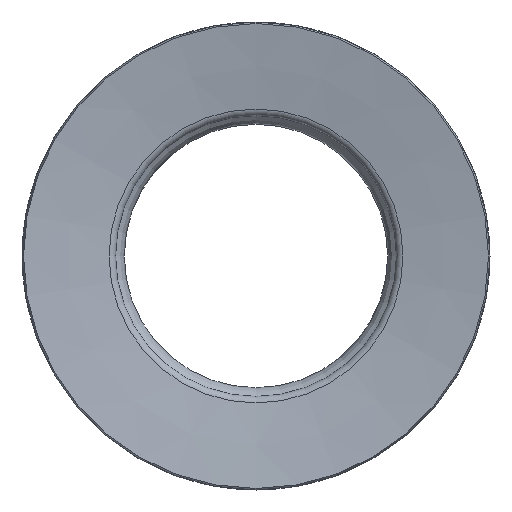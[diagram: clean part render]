
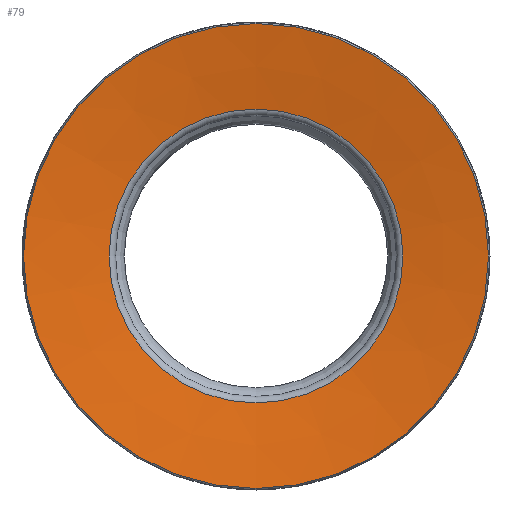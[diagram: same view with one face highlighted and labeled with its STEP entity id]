
A CAD part, front view. The second image highlights one B-rep face of the part: STEP entity #79.
In plain terms, the highlighted conical face has half-angle 81 degrees and reference radius 9.482 mm.
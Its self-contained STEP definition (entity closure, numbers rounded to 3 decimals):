
#79=ADVANCED_FACE('',(#198,#199),#200,.F.);
#198=FACE_BOUND('',#488,.T.);
#199=FACE_OUTER_BOUND('',#489,.T.);
#200=CONICAL_SURFACE('',#490,9.482,1.414);
#488=EDGE_LOOP('',(#803));
#489=EDGE_LOOP('',(#804));
#490=AXIS2_PLACEMENT_3D('',#805,#806,#807);
#803=ORIENTED_EDGE('',*,*,#1542,.F.);
#804=ORIENTED_EDGE('',*,*,#1543,.T.);
#805=CARTESIAN_POINT('',(0.0,0.874,0.0));
#806=DIRECTION('',(0.0,-1.0,-0.0));
#807=DIRECTION('',(0.0,0.0,-1.0));
#1542=EDGE_CURVE('',#1766,#1766,#1767,.T.);
#1543=EDGE_CURVE('',#1768,#1768,#1769,.T.);
#1766=VERTEX_POINT('',#2153);
#1767=CIRCLE('',#2154,9.482);
#1768=VERTEX_POINT('',#2155);
#1769=CIRCLE('',#2156,15.0);
#2153=CARTESIAN_POINT('',(0.0,0.874,-9.482));
#2154=AXIS2_PLACEMENT_3D('',#2704,#2705,#2706);
#2155=CARTESIAN_POINT('',(0.0,0.,-15.0));
#2156=AXIS2_PLACEMENT_3D('',#2707,#2708,#2709);
#2704=CARTESIAN_POINT('',(0.0,0.874,0.0));
#2705=DIRECTION('',(0.0,-1.0,0.0));
#2706=DIRECTION('',(0.0,0.0,-1.0));
#2707=CARTESIAN_POINT('',(0.0,0.,0.0));
#2708=DIRECTION('',(0.0,-1.0,0.0));
#2709=DIRECTION('',(0.0,0.0,-1.0));
